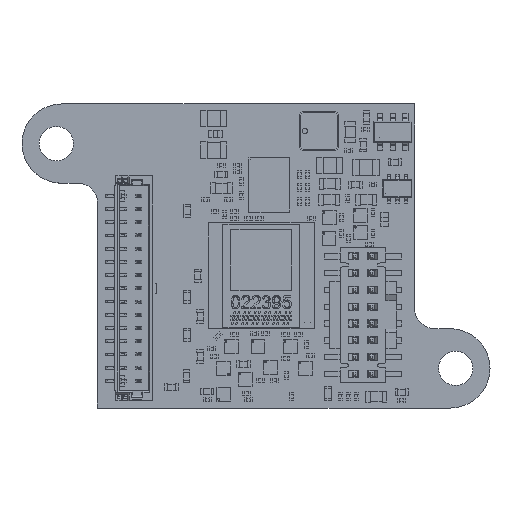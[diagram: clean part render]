
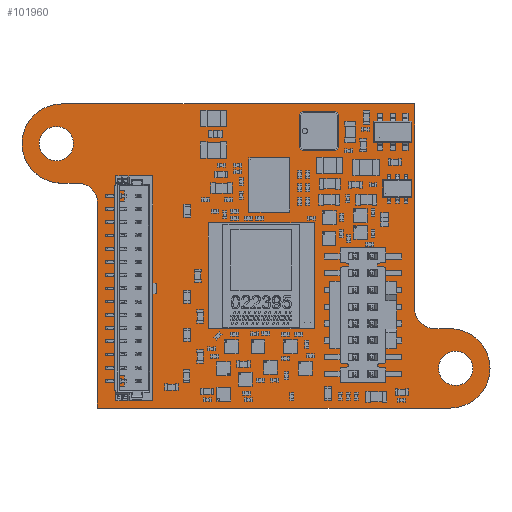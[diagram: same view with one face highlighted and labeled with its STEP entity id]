
A CAD part, top view. The second image highlights one B-rep face of the part: STEP entity #101960.
In plain terms, the highlighted planar face has unit normal (0, 0, 1).
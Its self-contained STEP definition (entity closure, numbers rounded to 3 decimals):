
#676=FACE_BOUND('',#12024,.T.);
#677=FACE_BOUND('',#12025,.T.);
#1072=PLANE('',#108094);
#6248=FACE_OUTER_BOUND('',#12023,.T.);
#12023=EDGE_LOOP('',(#69504,#69505,#69506,#69507,#69508,#69509,#69510,#69511,
#69512,#69513));
#12024=EDGE_LOOP('',(#69514));
#12025=EDGE_LOOP('',(#69515));
#18173=CIRCLE('',#108071,1.431);
#18175=CIRCLE('',#108076,3.);
#18177=CIRCLE('',#108080,1.533);
#18179=CIRCLE('',#108085,3.);
#18180=CIRCLE('',#108088,1.3);
#18182=CIRCLE('',#108091,1.3);
#19104=LINE('',#141959,#32304);
#19107=LINE('',#141965,#32307);
#19111=LINE('',#141977,#32311);
#19115=LINE('',#141989,#32315);
#19118=LINE('',#141995,#32318);
#19121=LINE('',#142004,#32321);
#32304=VECTOR('',#114976,1.);
#32307=VECTOR('',#114981,1.);
#32311=VECTOR('',#114993,1.);
#32315=VECTOR('',#115005,1.);
#32318=VECTOR('',#115010,1.);
#32321=VECTOR('',#115021,1.);
#45501=VERTEX_POINT('',#141947);
#45503=VERTEX_POINT('',#141951);
#45505=VERTEX_POINT('',#141957);
#45507=VERTEX_POINT('',#141963);
#45509=VERTEX_POINT('',#141969);
#45511=VERTEX_POINT('',#141975);
#45513=VERTEX_POINT('',#141981);
#45515=VERTEX_POINT('',#141987);
#45517=VERTEX_POINT('',#141993);
#45519=VERTEX_POINT('',#141999);
#45520=VERTEX_POINT('',#142006);
#45522=VERTEX_POINT('',#142012);
#54879=EDGE_CURVE('',#45501,#45503,#18173,.T.);
#54882=EDGE_CURVE('',#45503,#45505,#19104,.T.);
#54885=EDGE_CURVE('',#45505,#45507,#19107,.T.);
#54888=EDGE_CURVE('',#45507,#45509,#18175,.T.);
#54891=EDGE_CURVE('',#45509,#45511,#19111,.T.);
#54894=EDGE_CURVE('',#45511,#45513,#18177,.T.);
#54897=EDGE_CURVE('',#45513,#45515,#19115,.T.);
#54900=EDGE_CURVE('',#45515,#45517,#19118,.T.);
#54903=EDGE_CURVE('',#45517,#45519,#18179,.T.);
#54905=EDGE_CURVE('',#45519,#45501,#19121,.T.);
#54906=EDGE_CURVE('',#45520,#45520,#18180,.T.);
#54909=EDGE_CURVE('',#45522,#45522,#18182,.T.);
#69504=ORIENTED_EDGE('',*,*,#54879,.T.);
#69505=ORIENTED_EDGE('',*,*,#54882,.T.);
#69506=ORIENTED_EDGE('',*,*,#54885,.T.);
#69507=ORIENTED_EDGE('',*,*,#54888,.T.);
#69508=ORIENTED_EDGE('',*,*,#54891,.T.);
#69509=ORIENTED_EDGE('',*,*,#54894,.T.);
#69510=ORIENTED_EDGE('',*,*,#54897,.T.);
#69511=ORIENTED_EDGE('',*,*,#54900,.T.);
#69512=ORIENTED_EDGE('',*,*,#54903,.T.);
#69513=ORIENTED_EDGE('',*,*,#54905,.T.);
#69514=ORIENTED_EDGE('',*,*,#54906,.F.);
#69515=ORIENTED_EDGE('',*,*,#54909,.F.);
#101960=ADVANCED_FACE('',(#6248,#676,#677),#1072,.T.);
#108071=AXIS2_PLACEMENT_3D('',#141953,#114970,#114971);
#108076=AXIS2_PLACEMENT_3D('',#141971,#114987,#114988);
#108080=AXIS2_PLACEMENT_3D('',#141983,#114999,#115000);
#108085=AXIS2_PLACEMENT_3D('',#142001,#115016,#115017);
#108088=AXIS2_PLACEMENT_3D('',#142007,#115024,#115025);
#108091=AXIS2_PLACEMENT_3D('',#142013,#115031,#115032);
#108094=AXIS2_PLACEMENT_3D('',#142018,#115038,#115039);
#114970=DIRECTION('center_axis',(0.,0.,-1.));
#114971=DIRECTION('ref_axis',(0.001,1.,0.));
#114976=DIRECTION('',(0.,-1.,0.));
#114981=DIRECTION('',(1.,0.,0.));
#114987=DIRECTION('center_axis',(0.,0.,1.));
#114988=DIRECTION('ref_axis',(0.,-1.,0.));
#114993=DIRECTION('',(-1.,0.,0.));
#114999=DIRECTION('center_axis',(0.,0.,-1.));
#115000=DIRECTION('ref_axis',(-0.001,-1.,
0.));
#115005=DIRECTION('',(0.,1.,0.));
#115010=DIRECTION('',(-1.,0.,0.));
#115016=DIRECTION('center_axis',(0.,0.,1.));
#115017=DIRECTION('ref_axis',(0.,1.,0.));
#115021=DIRECTION('',(1.,0.,0.));
#115024=DIRECTION('center_axis',(0.,0.,1.));
#115025=DIRECTION('ref_axis',(1.,0.,0.));
#115031=DIRECTION('center_axis',(0.,0.,1.));
#115032=DIRECTION('ref_axis',(1.,0.,0.));
#115038=DIRECTION('center_axis',(0.,0.,1.));
#115039=DIRECTION('ref_axis',(1.,0.,0.));
#141947=CARTESIAN_POINT('',(4.271,17.,0.));
#141951=CARTESIAN_POINT('',(5.7,15.571,0.));
#141953=CARTESIAN_POINT('Origin',(4.269,15.569,0.));
#141957=CARTESIAN_POINT('',(5.7,0.,0.));
#141959=CARTESIAN_POINT('',(5.7,15.571,0.));
#141963=CARTESIAN_POINT('',(32.4,0.,0.));
#141965=CARTESIAN_POINT('',(5.7,0.,0.));
#141969=CARTESIAN_POINT('',(32.4,6.,0.));
#141971=CARTESIAN_POINT('Origin',(32.4,3.,0.));
#141975=CARTESIAN_POINT('',(31.232,6.,0.));
#141977=CARTESIAN_POINT('',(32.4,6.,0.));
#141981=CARTESIAN_POINT('',(29.7,7.532,0.));
#141983=CARTESIAN_POINT('Origin',(31.233,7.533,0.));
#141987=CARTESIAN_POINT('',(29.7,23.,0.));
#141989=CARTESIAN_POINT('',(29.7,7.532,0.));
#141993=CARTESIAN_POINT('',(3.,23.,0.));
#141995=CARTESIAN_POINT('',(29.7,23.,0.));
#141999=CARTESIAN_POINT('',(3.,17.,0.));
#142001=CARTESIAN_POINT('Origin',(3.,20.,0.));
#142004=CARTESIAN_POINT('',(3.,17.,0.));
#142006=CARTESIAN_POINT('',(1.3,20.,0.));
#142007=CARTESIAN_POINT('Origin',(2.6,20.,0.));
#142012=CARTESIAN_POINT('',(31.5,3.,0.));
#142013=CARTESIAN_POINT('Origin',(32.8,3.,0.));
#142018=CARTESIAN_POINT('Origin',(17.695,11.503,0.));
